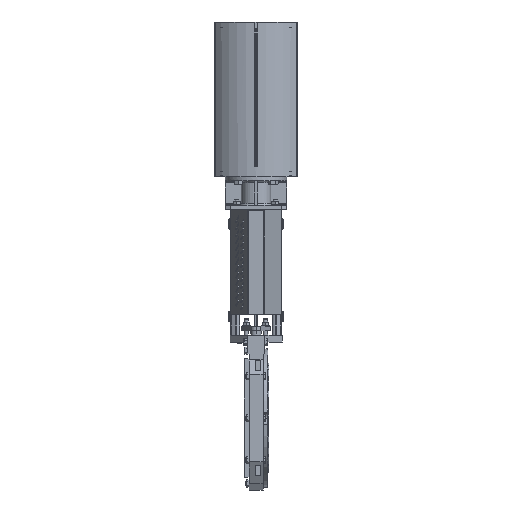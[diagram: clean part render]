
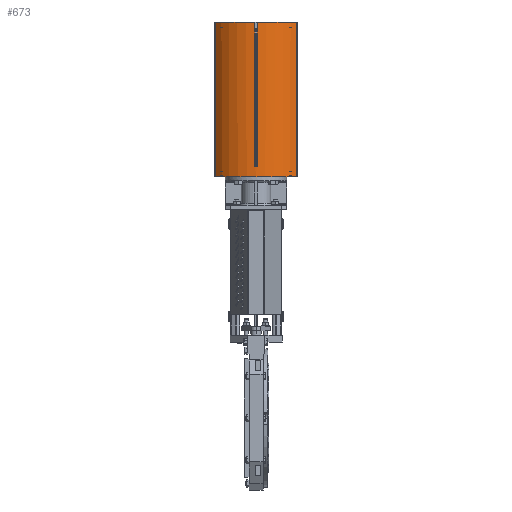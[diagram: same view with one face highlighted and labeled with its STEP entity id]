
A CAD part, front view. The second image highlights one B-rep face of the part: STEP entity #673.
In plain terms, the highlighted cylindrical face has radius 153.5 mm (diameter 307 mm), a partial arc.
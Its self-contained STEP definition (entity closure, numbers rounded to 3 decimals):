
#673=ADVANCED_FACE('',(#3182),#3183,.T.);
#3182=FACE_OUTER_BOUND('',#7545,.T.);
#3183=CYLINDRICAL_SURFACE('',#7546,153.5);
#7545=EDGE_LOOP('',(#14944,#14945,#14946,#14947,#14948,#14949,#14950,#14951,#14952,#14953,#14954,#14955));
#7546=AXIS2_PLACEMENT_3D('',#14956,#14957,#14958);
#14944=ORIENTED_EDGE('',*,*,#28886,.T.);
#14945=ORIENTED_EDGE('',*,*,#28872,.T.);
#14946=ORIENTED_EDGE('',*,*,#28887,.F.);
#14947=ORIENTED_EDGE('',*,*,#28616,.T.);
#14948=ORIENTED_EDGE('',*,*,#28888,.T.);
#14949=ORIENTED_EDGE('',*,*,#28858,.T.);
#14950=ORIENTED_EDGE('',*,*,#28844,.T.);
#14951=ORIENTED_EDGE('',*,*,#28719,.T.);
#14952=ORIENTED_EDGE('',*,*,#28733,.F.);
#14953=ORIENTED_EDGE('',*,*,#28698,.T.);
#14954=ORIENTED_EDGE('',*,*,#28730,.T.);
#14955=ORIENTED_EDGE('',*,*,#28711,.T.);
#14956=CARTESIAN_POINT('',(0.,39.2,1085.));
#14957=DIRECTION('',(0.,0.,-1.));
#14958=DIRECTION('',(-0.764,-0.645,0.));
#28616=EDGE_CURVE('',#35804,#35805,#35806,.T.);
#28698=EDGE_CURVE('',#35929,#35926,#35930,.T.);
#28711=EDGE_CURVE('',#35953,#35951,#35954,.T.);
#28719=EDGE_CURVE('',#35946,#35967,#35969,.T.);
#28730=EDGE_CURVE('',#35926,#35953,#35980,.T.);
#28733=EDGE_CURVE('',#35929,#35967,#35983,.T.);
#28844=EDGE_CURVE('',#36147,#35946,#36148,.T.);
#28858=EDGE_CURVE('',#36170,#36147,#36171,.T.);
#28872=EDGE_CURVE('',#36166,#36195,#36197,.T.);
#28886=EDGE_CURVE('',#35951,#36166,#36214,.T.);
#28887=EDGE_CURVE('',#35804,#36195,#36215,.T.);
#28888=EDGE_CURVE('',#35805,#36170,#36216,.T.);
#35804=VERTEX_POINT('',#46205);
#35805=VERTEX_POINT('',#46206);
#35806=CIRCLE('',#46207,153.5);
#35926=VERTEX_POINT('',#46383);
#35929=VERTEX_POINT('',#46387);
#35930=CIRCLE('',#46388,153.5);
#35946=VERTEX_POINT('',#46410);
#35951=VERTEX_POINT('',#46417);
#35953=VERTEX_POINT('',#46420);
#35954=CIRCLE('',#46421,153.5);
#35967=VERTEX_POINT('',#46440);
#35969=CIRCLE('',#46443,153.5);
#35980=LINE('',#46454,#46455);
#35983=LINE('',#46460,#46461);
#36147=VERTEX_POINT('',#46869);
#36148=LINE('',#46870,#46871);
#36166=VERTEX_POINT('',#46895);
#36170=VERTEX_POINT('',#46901);
#36171=CIRCLE('',#46902,153.5);
#36195=VERTEX_POINT('',#46930);
#36197=CIRCLE('',#46932,153.5);
#36214=LINE('',#46956,#46957);
#36215=LINE('',#46958,#46959);
#36216=LINE('',#46960,#46961);
#46205=CARTESIAN_POINT('',(-117.292,-59.819,692.));
#46206=CARTESIAN_POINT('',(117.292,-59.819,692.));
#46207=AXIS2_PLACEMENT_3D('',#62448,#62449,#62450);
#46383=CARTESIAN_POINT('',(-2.725,-114.276,720.));
#46387=CARTESIAN_POINT('',(2.725,-114.276,720.));
#46388=AXIS2_PLACEMENT_3D('',#62640,#62641,#62642);
#46410=CARTESIAN_POINT('',(3.5,-114.26,1115.));
#46417=CARTESIAN_POINT('',(-3.5,-114.26,1115.));
#46420=CARTESIAN_POINT('',(-2.725,-114.276,1115.));
#46421=AXIS2_PLACEMENT_3D('',#62661,#62662,#62663);
#46440=CARTESIAN_POINT('',(2.725,-114.276,1115.));
#46443=AXIS2_PLACEMENT_3D('',#62671,#62672,#62673);
#46454=CARTESIAN_POINT('',(-2.725,-114.276,720.));
#46455=VECTOR('',#62704,10.);
#46460=CARTESIAN_POINT('',(2.725,-114.276,720.));
#46461=VECTOR('',#62707,10.);
#46869=CARTESIAN_POINT('',(3.5,-114.26,1135.));
#46870=CARTESIAN_POINT('',(3.5,-114.26,1135.));
#46871=VECTOR('',#62850,1000.);
#46895=CARTESIAN_POINT('',(-3.5,-114.26,1135.));
#46901=CARTESIAN_POINT('',(117.292,-59.819,1135.));
#46902=AXIS2_PLACEMENT_3D('',#62874,#62875,#62876);
#46930=CARTESIAN_POINT('',(-117.292,-59.819,1135.));
#46932=AXIS2_PLACEMENT_3D('',#62908,#62909,#62910);
#46956=CARTESIAN_POINT('',(-3.5,-114.26,1115.));
#46957=VECTOR('',#62936,1000.);
#46958=CARTESIAN_POINT('',(-117.292,-59.819,692.));
#46959=VECTOR('',#62937,1000.);
#46960=CARTESIAN_POINT('',(117.292,-59.819,692.));
#46961=VECTOR('',#62938,1000.);
#62448=CARTESIAN_POINT('',(0.,39.2,692.));
#62449=DIRECTION('',(0.,0.,1.));
#62450=DIRECTION('',(-0.764,-0.645,0.));
#62640=CARTESIAN_POINT('',(0.,39.2,720.));
#62641=DIRECTION('',(0.,0.,-1.));
#62642=DIRECTION('',(-0.764,-0.645,0.));
#62661=CARTESIAN_POINT('',(0.,39.2,1115.));
#62662=DIRECTION('',(0.,0.,-1.));
#62663=DIRECTION('',(0.,1.,0.));
#62671=CARTESIAN_POINT('',(0.,39.2,1115.));
#62672=DIRECTION('',(0.,0.,-1.));
#62673=DIRECTION('',(0.,1.,0.));
#62704=DIRECTION('',(0.,0.,1.));
#62707=DIRECTION('',(0.,0.,1.));
#62850=DIRECTION('',(0.,0.,-1.));
#62874=CARTESIAN_POINT('',(0.,39.2,1135.));
#62875=DIRECTION('',(0.,0.,-1.));
#62876=DIRECTION('',(-0.764,-0.645,0.));
#62908=CARTESIAN_POINT('',(0.,39.2,1135.));
#62909=DIRECTION('',(0.,0.,-1.));
#62910=DIRECTION('',(-0.764,-0.645,0.));
#62936=DIRECTION('',(0.,0.,1.));
#62937=DIRECTION('',(0.,0.,1.));
#62938=DIRECTION('',(0.,0.,1.));
